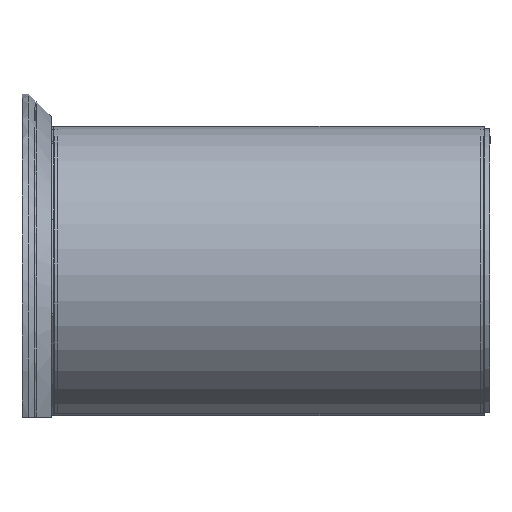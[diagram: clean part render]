
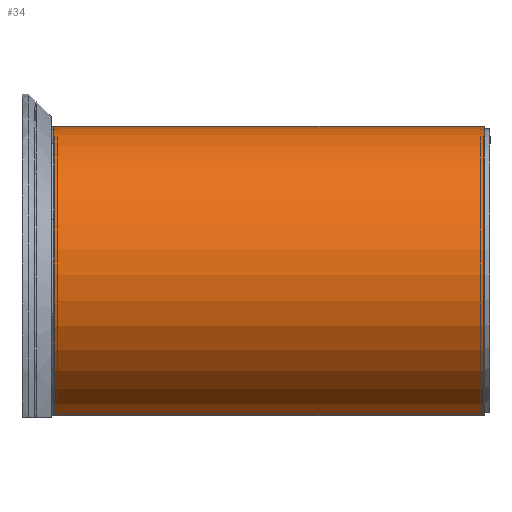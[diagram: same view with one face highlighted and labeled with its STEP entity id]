
A CAD part, left-side view. The second image highlights one B-rep face of the part: STEP entity #34.
In plain terms, the highlighted cylindrical face has radius 230 mm (diameter 460 mm), a partial arc.
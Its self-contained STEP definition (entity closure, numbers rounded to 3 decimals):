
#34 = ADVANCED_FACE ( 'NONE', ( #3882 ), #5353, .T. ) ;
#470 = DIRECTION ( 'NONE',  ( 0., -1., 0. ) ) ;
#702 = LINE ( 'NONE', #6393, #8038 ) ;
#785 = DIRECTION ( 'NONE',  ( 0., 0., 1. ) ) ;
#866 = CARTESIAN_POINT ( 'NONE',  ( 2., 0., 230. ) ) ;
#1077 = EDGE_LOOP ( 'NONE', ( #5845, #5143, #7311, #3218 ) ) ;
#1117 = DIRECTION ( 'NONE',  ( 0., 1., 0. ) ) ;
#1926 = EDGE_CURVE ( 'NONE', #9002, #5883, #4734, .T. ) ;
#2068 = VERTEX_POINT ( 'NONE', #4868 ) ;
#2104 = CIRCLE ( 'NONE', #5654, 230. ) ;
#2272 = CARTESIAN_POINT ( 'NONE',  ( 2., 665., 0. ) ) ;
#3116 = AXIS2_PLACEMENT_3D ( 'NONE', #6117, #6832, #3315 ) ;
#3218 = ORIENTED_EDGE ( 'NONE', *, *, #7261, .T. ) ;
#3315 = DIRECTION ( 'NONE',  ( 0., 0., -1. ) ) ;
#3437 = VECTOR ( 'NONE', #470, 1000. ) ;
#3449 = CARTESIAN_POINT ( 'NONE',  ( 2., 665., 230. ) ) ;
#3656 = EDGE_CURVE ( 'NONE', #8277, #2068, #2104, .T. ) ;
#3812 = CARTESIAN_POINT ( 'NONE',  ( 2., 665., -230. ) ) ;
#3882 = FACE_OUTER_BOUND ( 'NONE', #1077, .T. ) ;
#4354 = DIRECTION ( 'NONE',  ( 0., -1., 0. ) ) ;
#4395 = DIRECTION ( 'NONE',  ( 0., 1., 0. ) ) ;
#4734 = CIRCLE ( 'NONE', #8399, 230. ) ;
#4772 = CARTESIAN_POINT ( 'NONE',  ( 2., 0., 0. ) ) ;
#4868 = CARTESIAN_POINT ( 'NONE',  ( 2., 0., -230. ) ) ;
#5143 = ORIENTED_EDGE ( 'NONE', *, *, #9048, .F. ) ;
#5353 = CYLINDRICAL_SURFACE ( 'NONE', #3116, 230. ) ;
#5654 = AXIS2_PLACEMENT_3D ( 'NONE', #4772, #1117, #7162 ) ;
#5845 = ORIENTED_EDGE ( 'NONE', *, *, #3656, .T. ) ;
#5883 = VERTEX_POINT ( 'NONE', #3812 ) ;
#6117 = CARTESIAN_POINT ( 'NONE',  ( 2., 665., 0. ) ) ;
#6393 = CARTESIAN_POINT ( 'NONE',  ( 2., 665., 230. ) ) ;
#6832 = DIRECTION ( 'NONE',  ( 0., -1., 0. ) ) ;
#6920 = LINE ( 'NONE', #8504, #3437 ) ;
#7162 = DIRECTION ( 'NONE',  ( 0., 0., 1. ) ) ;
#7261 = EDGE_CURVE ( 'NONE', #9002, #8277, #702, .T. ) ;
#7311 = ORIENTED_EDGE ( 'NONE', *, *, #1926, .F. ) ;
#8038 = VECTOR ( 'NONE', #4354, 1000. ) ;
#8277 = VERTEX_POINT ( 'NONE', #866 ) ;
#8399 = AXIS2_PLACEMENT_3D ( 'NONE', #2272, #4395, #785 ) ;
#8504 = CARTESIAN_POINT ( 'NONE',  ( 2., 665., -230. ) ) ;
#9002 = VERTEX_POINT ( 'NONE', #3449 ) ;
#9048 = EDGE_CURVE ( 'NONE', #5883, #2068, #6920, .T. ) ;
